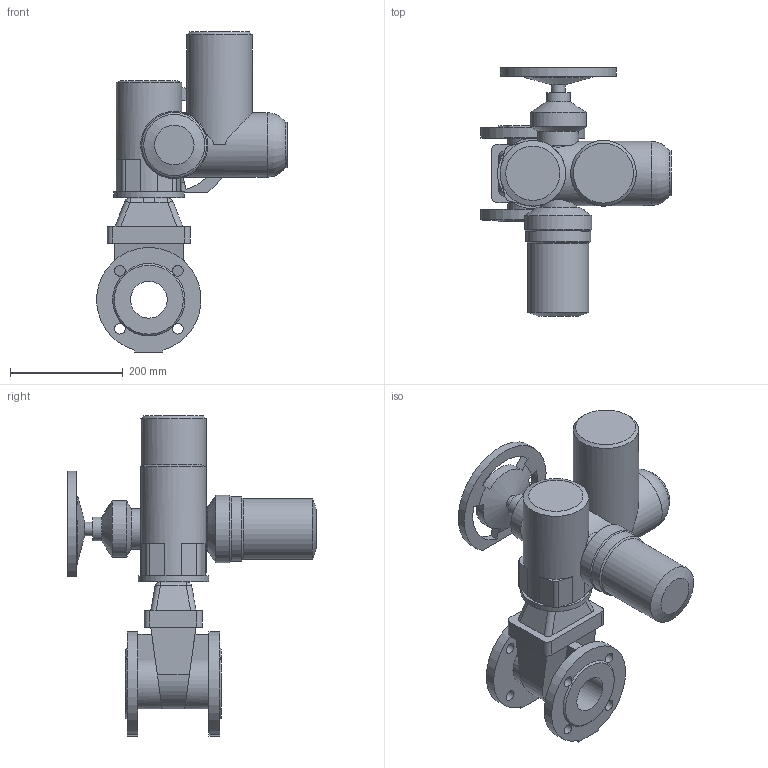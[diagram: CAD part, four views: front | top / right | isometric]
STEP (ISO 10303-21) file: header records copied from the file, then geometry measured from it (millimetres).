
FILE_DESCRIPTION(('STEP AP203'), '1');
FILE_NAME('青溻桄赅 47GVA DN65 PN10_PN16+MT903.A07', '', ('UNSPECIFIED'), ('UNSPECIFIED'), 'ASCON STEP Converter 1.6', 'ASCON Math Kernel', '');
FILE_SCHEMA(('CONFIG_CONTROL_DESIGN'));
Length unit declared in the file: millimetre
Bounding box: 337.2 x 440 x 566.5 mm (x, y, z)
Volume: 11242947.1 mm3; surface area: 685250.9 mm2
Topology: 2 solids, 2 shells, 191 faces, 499 edges, 318 vertices
Faces by surface type: plane 93, cylinder 79, cone 11, bspline 7, torus 1
Full cylindrical faces by diameter (mm): 8.5 x4, 12 x4, 18 x1, 19 x8, 24 x1, 42 x1, 50 x1, 65 x1, 66 x1, 70 x2, 72 x1, 80 x1, 100 x1, 108 x1, 114 x1, 115 x1, 116 x2, 119 x1, 125 x1
Entity records: 9593 total; most frequent: CARTESIAN_POINT 3465, DIRECTION 944, ORIENTED_EDGE 892, EDGE_CURVE 446, AXIS2_PLACEMENT_3D 365, VERTEX_POINT 317, EDGE_LOOP 281, LINE 214
